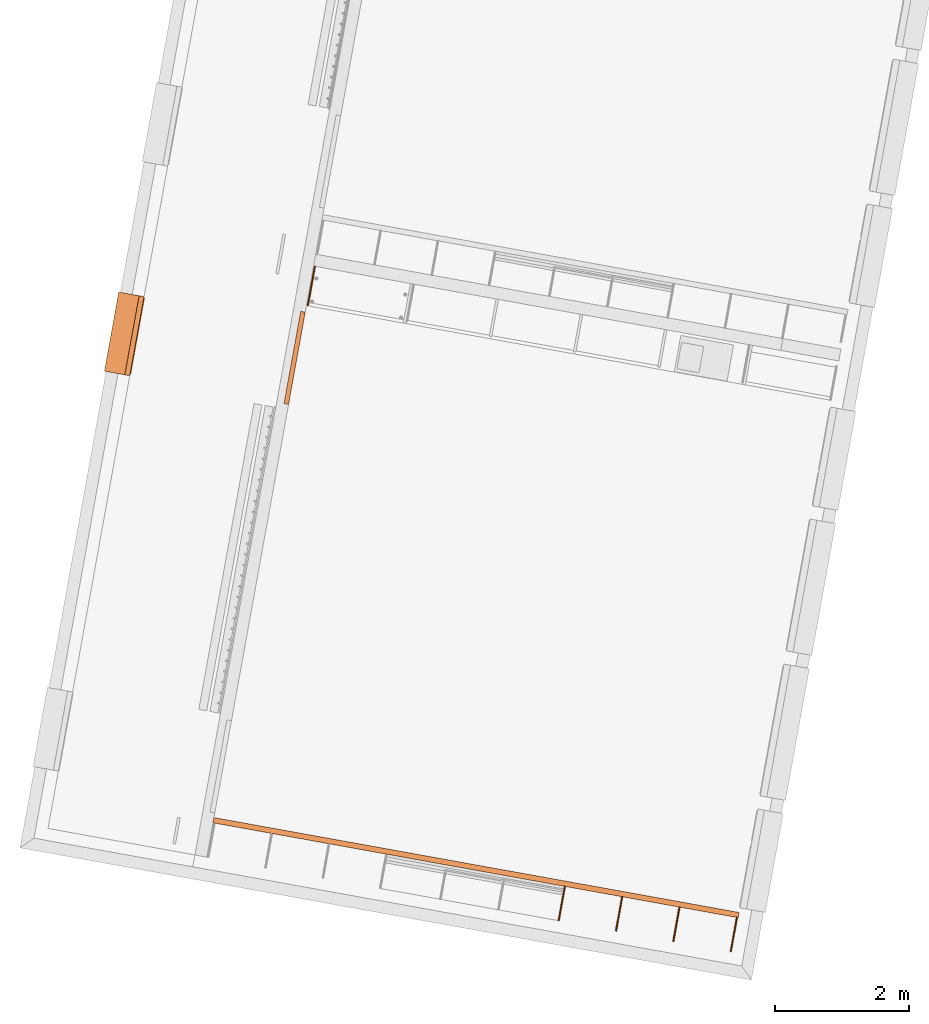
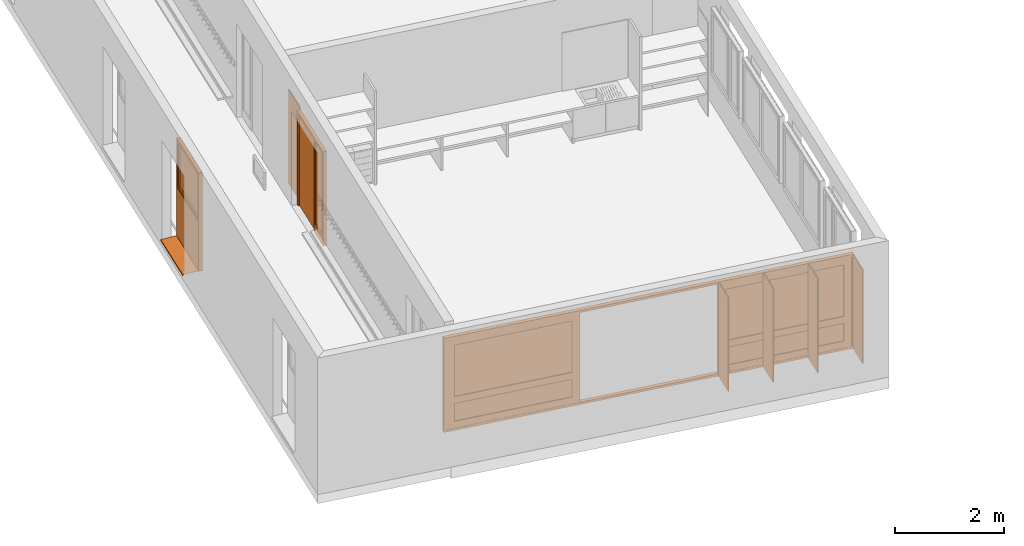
# One storey, part 9 of 52: 8 proxies.
"""IFC2X3 building model written with IfcOpenShell, lengths in metres."""

import ifcopenshell
import ifcopenshell.guid

model = None  # the IFC model being written
_history = None  # IfcOwnerHistory: only IFC2X3 demands one
_inside = {}  # id of a spatial element -> (the spatial element, [elements in it])
_under = {}  # id of a project, library or spatial element -> (it, [spatial elements below it])
_declared = {}  # id of a project -> (the project, [libraries it declares])
_typed = {}  # id of a type object -> (the type object, [elements of that type])
_made_of = {}  # id of a material, layer set ... -> (it, [elements and type objects made of it])


def new_model(schema):
    """Start an empty IFC model of exactly this schema.

    Asked for "IFC4X3", IfcOpenShell would pick the latest addendum, in which some entities
    have other attributes; the version numbers below select the first issue.
    IFC2X3 requires an IfcOwnerHistory on every rooted entity: one is made here for all.
    """
    global model, _history
    if schema == "IFC4X3":
        model = ifcopenshell.file(schema_version=(4, 3, 0, 0))
    else:
        model = ifcopenshell.file(schema=schema)
    _inside.clear()
    _under.clear()
    _declared.clear()
    _typed.clear()
    _made_of.clear()
    _history = None
    if model.schema == "IFC2X3":
        org = make("IfcOrganization", Name="unknown")
        user = make(
            "IfcPersonAndOrganization",
            ThePerson=make("IfcPerson", FamilyName="unknown"),
            TheOrganization=org,
        )
        app = make(
            "IfcApplication",
            ApplicationDeveloper=org,
            Version="unknown",
            ApplicationFullName="unknown",
            ApplicationIdentifier="unknown",
        )
        _history = make(
            "IfcOwnerHistory",
            OwningUser=user,
            OwningApplication=app,
            ChangeAction="ADDED",
            CreationDate=0,
        )
    return model


def make(cls, **values):
    """One entity of the class cls with the attributes given. An attribute that is None is left unset."""
    return model.create_entity(
        cls, **{name: value for name, value in values.items() if value is not None}
    )


def entity(cls, *values):
    """Any entity or typed value of the class cls, its attributes in the order of the schema. None: left unset."""
    e = model.create_entity(cls)
    for i, value in enumerate(values):
        if value is not None:
            e[i] = value
    return e


def rooted(cls, **values):
    """An entity with a GlobalId (a new one), such as an element, a storey or a relation."""
    return make(cls, GlobalId=ifcopenshell.guid.new(), OwnerHistory=_history, **values)


def si_unit(unit_type, name, prefix=None):
    """IfcSIUnit, for example si_unit("LENGTHUNIT", "METRE", prefix="MILLI")."""
    return make("IfcSIUnit", UnitType=unit_type, Prefix=prefix, Name=name)


def converted_unit(unit_type, name, factor, base, dimensions=None, offset=None):
    """IfcConversionBasedUnit, such as the inch: factor (a typed value) times the base unit."""
    return make(
        "IfcConversionBasedUnit"
        if offset is None
        else "IfcConversionBasedUnitWithOffset",
        ConversionOffset=offset,
        Dimensions=None
        if dimensions is None
        else entity("IfcDimensionalExponents", *dimensions),
        UnitType=unit_type,
        Name=name,
        ConversionFactor=make(
            "IfcMeasureWithUnit", ValueComponent=factor, UnitComponent=base
        ),
    )


def derived_unit(unit_type, elements):
    """IfcDerivedUnit: a product of units, each with its exponent."""
    return make(
        "IfcDerivedUnit",
        Elements=[
            make("IfcDerivedUnitElement", Unit=unit, Exponent=power)
            for unit, power in elements
        ],
        UnitType=unit_type,
    )


def money_unit(currency):
    """IfcMonetaryUnit."""
    return make("IfcMonetaryUnit", Currency=currency)


def assignment(units):
    """IfcUnitAssignment: the units of a project."""
    return None if units is None else make("IfcUnitAssignment", Units=units)


def point(xyz):
    """IfcCartesianPoint."""
    return None if xyz is None else make("IfcCartesianPoint", Coordinates=xyz)


def direction(xyz):
    """IfcDirection."""
    return None if xyz is None else make("IfcDirection", DirectionRatios=xyz)


def frame(location, z_axis=None, x_axis=None):
    """IfcAxis2Placement3D, a coordinate frame: its origin and axes. An axis left out is left unset."""
    return make(
        "IfcAxis2Placement3D",
        Location=point(location),
        Axis=direction(z_axis),
        RefDirection=direction(x_axis),
    )


def origin_with_axes():
    """The frame at (0, 0, 0) with the z axis (0, 0, 1) and the x axis (1, 0, 0) written out."""
    return frame((0.0, 0.0, 0.0), z_axis=(0.0, 0.0, 1.0), x_axis=(1.0, 0.0, 0.0))


def place(relative_to, where):
    """IfcLocalPlacement: puts the frame where relative to a parent placement (None: the world)."""
    return make(
        "IfcLocalPlacement", PlacementRelTo=relative_to, RelativePlacement=where
    )


def context(
    kind, dimensions, precision=None, world=None, true_north=None, identifier=None
):
    """IfcGeometricRepresentationContext, for example the 3D "Model" context."""
    return make(
        "IfcGeometricRepresentationContext",
        ContextIdentifier=identifier,
        ContextType=kind,
        CoordinateSpaceDimension=dimensions,
        Precision=precision,
        WorldCoordinateSystem=world,
        TrueNorth=true_north,
    )


def subcontext(parent, identifier, kind, view, scale=None):
    """IfcGeometricRepresentationSubContext, for example "Body" below "Model"."""
    return make(
        "IfcGeometricRepresentationSubContext",
        ContextIdentifier=identifier,
        ContextType=kind,
        ParentContext=parent,
        TargetScale=scale,
        TargetView=view,
    )


def project(units=None, contexts=None):
    """IfcProject with its units and contexts."""
    return rooted(
        "IfcProject",
        Name="project",
        RepresentationContexts=contexts,
        UnitsInContext=assignment(units),
    )


def spatial(cls, under=None, at=None, **own):
    """A site, building, storey or space (cls), placed at a placement, below another one or the project."""
    s = rooted(cls, ObjectPlacement=at, **own)
    if under is not None:
        _under.setdefault(under.id(), (under, []))[1].append(s)
    return s


def polyline(points):
    """IfcPolyline through the points."""
    return make("IfcPolyline", Points=[point(p) for p in points])


def outline(outer, holes=None, kind="AREA"):
    """IfcArbitraryClosedProfileDef: a profile drawn as a closed curve; with holes, ...WithVoids."""
    if holes is None:
        return make("IfcArbitraryClosedProfileDef", ProfileType=kind, OuterCurve=outer)
    return make(
        "IfcArbitraryProfileDefWithVoids",
        ProfileType=kind,
        OuterCurve=outer,
        InnerCurves=holes,
    )


def extrude(swept, where, along, depth):
    """IfcExtrudedAreaSolid: the profile swept, set in the frame where, extruded along a direction by depth."""
    return make(
        "IfcExtrudedAreaSolid",
        SweptArea=swept,
        Position=where,
        ExtrudedDirection=direction(along),
        Depth=depth,
    )


def faces_of(points, faces, orient=None, outer=None):
    """IfcFace entities. A face is a list of loops; a loop is a list of indices into points, from 0.

    orient and outer hold one flag for each loop. By default every Orientation is true, the
    first loop of a face is its IfcFaceOuterBound and the others are IfcFaceBound.
    """
    made = []
    for i, loops in enumerate(faces):
        bounds = []
        for j, loop in enumerate(loops):
            is_outer = j == 0 if outer is None else outer[i][j]
            bounds.append(
                make(
                    "IfcFaceOuterBound" if is_outer else "IfcFaceBound",
                    Bound=make("IfcPolyLoop", Polygon=[points[k] for k in loop]),
                    Orientation=True if orient is None else orient[i][j],
                )
            )
        made.append(make("IfcFace", Bounds=bounds))
    return made


def open_shell(faces, orient=None, outer=None):
    """The faces of one IfcOpenShell. surface_model builds it on its shared points."""
    return ("IfcOpenShell", faces, orient, outer)


def faceted_brep(points, faces, orient=None, outer=None, voids=None):
    """IfcFacetedBrep: a solid bounded by flat faces; with voids (closed shells), ...WithVoids."""
    shared = [point(p) for p in points]
    hull = make("IfcClosedShell", CfsFaces=faces_of(shared, faces, orient, outer))
    if voids is None:
        return make("IfcFacetedBrep", Outer=hull)
    return make(
        "IfcFacetedBrepWithVoids",
        Outer=hull,
        Voids=[
            make(cls, CfsFaces=faces_of(shared, fs, o, b)) for cls, fs, o, b in voids
        ],
    )


def surface_model(cls, points, shells):
    """IfcFaceBasedSurfaceModel or IfcShellBasedSurfaceModel (cls): surfaces that need not close."""
    shared = [point(p) for p in points]
    made = [make(c, CfsFaces=faces_of(shared, fs, o, b)) for c, fs, o, b in shells]
    if cls == "IfcFaceBasedSurfaceModel":
        return make(cls, FbsmFaces=made)
    return make(cls, SbsmBoundary=made)


def shape(context_of_items, identifier, shape_type, items):
    """IfcShapeRepresentation: the items that make up one representation, for example the "Body"."""
    return make(
        "IfcShapeRepresentation",
        ContextOfItems=context_of_items,
        RepresentationIdentifier=identifier,
        RepresentationType=shape_type,
        Items=items,
    )


def source(mapping_origin, context_of_items, identifier, shape_type, items):
    """IfcRepresentationMap: a shape defined once, which mapped items show again and again."""
    return make(
        "IfcRepresentationMap",
        MappingOrigin=mapping_origin,
        MappedRepresentation=shape(context_of_items, identifier, shape_type, items),
    )


def transform(
    local_origin,
    x_axis=None,
    y_axis=None,
    z_axis=None,
    scale=None,
    scale2=None,
    scale3=None,
    uniform=True,
):
    """IfcCartesianTransformationOperator3D, or its non-uniform kind. x_axis, y_axis, z_axis: its Axis1, 2, 3."""
    if uniform:
        return make(
            "IfcCartesianTransformationOperator3D",
            Axis1=direction(x_axis),
            Axis2=direction(y_axis),
            LocalOrigin=point(local_origin),
            Scale=scale,
            Axis3=direction(z_axis),
        )
    return make(
        "IfcCartesianTransformationOperator3DnonUniform",
        Axis1=direction(x_axis),
        Axis2=direction(y_axis),
        LocalOrigin=point(local_origin),
        Scale=scale,
        Axis3=direction(z_axis),
        Scale2=scale2,
        Scale3=scale3,
    )


def mapped(mapping_source, mapping_target):
    """IfcMappedItem: shows the shape of a source again, moved by a transform."""
    return make(
        "IfcMappedItem", MappingSource=mapping_source, MappingTarget=mapping_target
    )


def material(Name=None, Category=None):
    """IfcMaterial."""
    return make("IfcMaterial", Name=Name, Category=Category)


def made_of(thing, what):
    """Note that an element or type object is made of a material, layer set ...; save() writes the relation."""
    if what is not None:
        _made_of.setdefault(what.id(), (what, []))[1].append(thing)
    return thing


def type_object(cls, material=None, **own):
    """A type object (cls), such as IfcWallType, which elements share."""
    return made_of(rooted(cls, **own), material)


def element(
    cls,
    number,
    at=None,
    inside=None,
    cuts=None,
    type_object=None,
    material=None,
    context=None,
    identifier="Body",
    shape_type=None,
    held_by="IfcProductDefinitionShape",
    body=None,
    shapes=None,
    **own,
):
    """One element of the class cls, such as IfcWall. Its Tag is "e" and its number.

    at: its placement. inside: the storey or other place that contains it. cuts: it is an
    opening in that element (IfcRelVoidsElement). A single representation is given by context,
    identifier, shape_type and body (its items); several are given by shapes. held_by: the class
    of the entity that holds the representations. save() writes the other relations.
    """
    e = rooted(cls, Tag="e%d" % number, ObjectPlacement=at, **own)
    if body is not None:
        shapes = [shape(context, identifier, shape_type, body)]
    if shapes is not None:
        e.Representation = make(held_by, Representations=shapes)
    if inside is not None:
        _inside.setdefault(inside.id(), (inside, []))[1].append(e)
    if cuts is not None:
        rooted(
            "IfcRelVoidsElement", RelatingBuildingElement=cuts, RelatedOpeningElement=e
        )
    if type_object is not None:
        _typed.setdefault(type_object.id(), (type_object, []))[1].append(e)
    return made_of(e, material)


def aggregate(whole, parts):
    """IfcRelAggregates: a whole, such as a stair, and the parts it consists of."""
    return rooted("IfcRelAggregates", RelatingObject=whole, RelatedObjects=parts)


def save(model, path):
    """Write the relations noted so far, then the file.

    IfcRelAggregates (storeys below a building ...), IfcRelContainedInSpatialStructure (elements
    in a storey), IfcRelDefinesByType, IfcRelAssociatesMaterial and IfcRelDeclares: one each for
    every whole, place, type object, material and project.
    """
    for whole, parts in _under.values():
        aggregate(whole, parts)
    for where, things in _inside.values():
        rooted(
            "IfcRelContainedInSpatialStructure",
            RelatedElements=things,
            RelatingStructure=where,
        )
    for kind, things in _typed.values():
        rooted("IfcRelDefinesByType", RelatedObjects=things, RelatingType=kind)
    for what, things in _made_of.values():
        rooted("IfcRelAssociatesMaterial", RelatedObjects=things, RelatingMaterial=what)
    for by, libraries in _declared.values():
        rooted("IfcRelDeclares", RelatingContext=by, RelatedDefinitions=libraries)
    model.write(path)


model = new_model("IFC2X3")

# Units and contexts
model_context = context("Model", 3, precision=1e-05, world=origin_with_axes(), true_north=direction((0.0, 1.0)))
body_context = subcontext(model_context, "Body", "Model", "MODEL_VIEW")
ifc_project = project(units=[si_unit("LENGTHUNIT", "METRE"), si_unit("AREAUNIT", "SQUARE_METRE"), si_unit("VOLUMEUNIT", "CUBIC_METRE"), converted_unit("PLANEANGLEUNIT", "DEGREE", entity("IfcPlaneAngleMeasure", 0.0174532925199), si_unit("PLANEANGLEUNIT", "RADIAN"), dimensions=[0, 0, 0, 0, 0, 0, 0]), money_unit("CHF"), converted_unit("TIMEUNIT", "Year", entity("IfcTimeMeasure", 31556926.0), si_unit("TIMEUNIT", "SECOND"), dimensions=[0, 0, 1, 0, 0, 0, 0]), si_unit("MASSUNIT", "GRAM", prefix="KILO"), si_unit("THERMODYNAMICTEMPERATUREUNIT", "DEGREE_CELSIUS"), si_unit("LUMINOUSINTENSITYUNIT", "LUMEN"), si_unit("ENERGYUNIT", "JOULE", prefix="MEGA"), derived_unit("THERMALCONDUCTANCEUNIT", [(si_unit("POWERUNIT", "WATT"), 1), (si_unit("LENGTHUNIT", "METRE"), -1), (si_unit("THERMODYNAMICTEMPERATUREUNIT", "KELVIN"), -1)]), derived_unit("SPECIFICHEATCAPACITYUNIT", [(si_unit("ENERGYUNIT", "JOULE"), 1), (si_unit("MASSUNIT", "GRAM", prefix="KILO"), -1), (si_unit("THERMODYNAMICTEMPERATUREUNIT", "KELVIN"), -1)]), derived_unit("MASSDENSITYUNIT", [(si_unit("MASSUNIT", "GRAM", prefix="KILO"), 1), (si_unit("VOLUMEUNIT", "CUBIC_METRE"), -1)])], contexts=[model_context])

# Site, building, storey
site_placement = place(None, frame((0.0, 0.0, 0.0), z_axis=(0.0, 0.0, 1.0), x_axis=(-0.177771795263, -0.984071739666, 0.0)))
site = spatial("IfcSite", under=ifc_project, at=site_placement, Name="Site", CompositionType="ELEMENT")
building_placement = place(site_placement, origin_with_axes())
building = spatial("IfcBuilding", under=site, at=building_placement, Name="Bâtiment", CompositionType="ELEMENT")
storey_placement = place(building_placement, frame((0.0, 0.0, 3.2), z_axis=(0.0, 0.0, 1.0), x_axis=(1.0, 0.0, 0.0)))
storey = spatial("IfcBuildingStorey", under=building, at=storey_placement, Name="R+1", CompositionType="ELEMENT", Elevation=3.2)

# Proxies
ifc_material_1 = material(Name="Matériau de construction IFC")
building_element_proxy_type_1 = type_object("IfcBuildingElementProxyType", Name="porte-couliss-triple_JM2", PredefinedType="NOTDEFINED")
shared_shape_1 = source(origin_with_axes(), body_context, "Body", "SurfaceModel", [
    surface_model("IfcShellBasedSurfaceModel", [(7.92, -0.0799999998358, 0.05), (7.92, -0.0799999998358, 2.05), (7.92, 1.64206426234e-10, 2.05), (7.92, 1.64206426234e-10, 0.05), (7.97, -0.0799999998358, 2.05), (7.97, -0.0799999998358, 0.05), (7.97, 1.64206426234e-10, 2.05), (7.97, 1.64206426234e-10, 0.05)], [open_shell([[[0, 1, 2, 3]], [[4, 1, 0, 5]], [[6, 7, 3, 2]]])]),
    surface_model("IfcShellBasedSurfaceModel", [(7.97, -0.0799999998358, 0.0), (7.97, -0.0799999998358, 2.1), (7.97, 1.64206426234e-10, 2.1), (7.97, 1.64206426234e-10, 0.0)], [open_shell([[[0, 1, 2, 3]]])]),
    surface_model("IfcShellBasedSurfaceModel", [(0.05, -0.0799999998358, 0.05), (7.92, -0.0799999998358, 0.05), (7.92, 1.64206426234e-10, 0.05), (0.05, 1.64206426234e-10, 0.05), (7.92, -0.0799999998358, 0.0), (0.05, -0.0799999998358, 0.0), (7.92, 1.64206426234e-10, 0.0), (0.05, 1.64206426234e-10, 0.0)], [open_shell([[[0, 1, 2, 3]], [[4, 1, 0, 5]], [[6, 7, 3, 2]]])]),
    surface_model("IfcShellBasedSurfaceModel", [(7.97, -0.0799999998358, 0.0), (0.0, -0.0799999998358, 0.0), (0.0, 1.64206426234e-10, 0.0), (7.97, 1.64206426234e-10, 0.0)], [open_shell([[[0, 1, 2, 3]]])]),
    surface_model("IfcShellBasedSurfaceModel", [(7.97, -0.0799999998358, 0.0), (7.97, -0.0799999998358, 0.05), (7.92, -0.0799999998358, 0.05), (7.92, -0.0799999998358, 0.0)], [open_shell([[[0, 1, 2, 3]]])]),
    surface_model("IfcShellBasedSurfaceModel", [(7.97, 1.64206426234e-10, 0.0), (7.97, 1.64206426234e-10, 0.05), (7.92, 1.64206426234e-10, 0.05), (7.92, 1.64206426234e-10, 0.0)], [open_shell([[[0, 1, 2, 3]]])]),
    surface_model("IfcShellBasedSurfaceModel", [(0.05, -0.0799999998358, 0.0), (0.05, -0.0799999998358, 0.05), (0.0, -0.0799999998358, 0.05), (0.0, -0.0799999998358, 0.0)], [open_shell([[[0, 1, 2, 3]]])]),
    surface_model("IfcShellBasedSurfaceModel", [(0.05, 1.64206426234e-10, 0.0), (0.05, 1.64206426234e-10, 0.05), (0.0, 1.64206426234e-10, 0.05), (0.0, 1.64206426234e-10, 0.0)], [open_shell([[[0, 1, 2, 3]]])]),
    surface_model("IfcShellBasedSurfaceModel", [(0.05, -0.0799999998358, 2.05), (0.05, -0.0799999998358, 0.05), (0.05, 1.64206426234e-10, 0.05), (0.05, 1.64206426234e-10, 2.05), (0.0, -0.0799999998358, 0.05), (0.0, -0.0799999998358, 2.05), (0.0, 1.64206426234e-10, 0.05), (0.0, 1.64206426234e-10, 2.05)], [open_shell([[[0, 1, 2, 3]], [[4, 1, 0, 5]], [[6, 7, 3, 2]]])]),
    surface_model("IfcShellBasedSurfaceModel", [(0.0, -0.0799999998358, 0.0), (0.0, -0.0799999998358, 2.1), (0.0, 1.64206426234e-10, 2.1), (0.0, 1.64206426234e-10, 0.0)], [open_shell([[[0, 1, 2, 3]]])]),
    surface_model("IfcShellBasedSurfaceModel", [(7.92, -0.0799999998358, 2.05), (0.05, -0.0799999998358, 2.05), (0.05, 1.64206426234e-10, 2.05), (7.92, 1.64206426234e-10, 2.05), (0.05, -0.0799999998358, 2.1), (7.92, -0.0799999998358, 2.1), (0.05, 1.64206426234e-10, 2.1), (7.92, 1.64206426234e-10, 2.1)], [open_shell([[[0, 1, 2, 3]], [[4, 1, 0, 5]], [[6, 7, 3, 2]]])]),
    surface_model("IfcShellBasedSurfaceModel", [(7.97, -0.0799999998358, 2.1), (0.0, -0.0799999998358, 2.1), (0.0, 1.64206426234e-10, 2.1), (7.97, 1.64206426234e-10, 2.1)], [open_shell([[[0, 1, 2, 3]]])]),
    surface_model("IfcShellBasedSurfaceModel", [(7.97, -0.0799999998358, 2.05), (7.97, -0.0799999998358, 2.1), (7.92, -0.0799999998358, 2.1), (7.92, -0.0799999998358, 2.05)], [open_shell([[[0, 1, 2, 3]]])]),
    surface_model("IfcShellBasedSurfaceModel", [(7.97, 1.64206426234e-10, 2.05), (7.97, 1.64206426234e-10, 2.1), (7.92, 1.64206426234e-10, 2.1), (7.92, 1.64206426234e-10, 2.05)], [open_shell([[[0, 1, 2, 3]]])]),
    surface_model("IfcShellBasedSurfaceModel", [(0.05, -0.0799999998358, 2.05), (0.05, -0.0799999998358, 2.1), (0.0, -0.0799999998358, 2.1), (0.0, -0.0799999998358, 2.05)], [open_shell([[[0, 1, 2, 3]]])]),
    surface_model("IfcShellBasedSurfaceModel", [(0.05, 1.64206426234e-10, 2.05), (0.05, 1.64206426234e-10, 2.1), (0.0, 1.64206426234e-10, 2.1), (0.0, 1.64206426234e-10, 2.05)], [open_shell([[[0, 1, 2, 3]]])]),
    surface_model("IfcShellBasedSurfaceModel", [(7.77, -0.0744999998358, 0.2), (7.77, -0.0744999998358, 1.9), (7.77, -0.00449999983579, 1.9), (7.77, -0.00449999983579, 0.2), (7.92, -0.0744999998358, 1.9), (7.92, -0.0744999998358, 0.2), (7.92, -0.00449999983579, 1.9), (7.92, -0.00449999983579, 0.2)], [open_shell([[[0, 1, 2, 3]], [[4, 1, 0, 5]], [[6, 7, 3, 2]]])]),
    surface_model("IfcShellBasedSurfaceModel", [(7.92, -0.0744999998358, 0.05), (7.92, -0.0744999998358, 2.05), (7.92, -0.00449999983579, 2.05), (7.92, -0.00449999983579, 0.05)], [open_shell([[[0, 1, 2, 3]]])]),
    surface_model("IfcShellBasedSurfaceModel", [(5.48, -0.0744999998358, 0.2), (7.77, -0.0744999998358, 0.2), (7.77, -0.00449999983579, 0.2), (5.48, -0.00449999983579, 0.2), (7.77, -0.0744999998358, 0.05), (5.48, -0.0744999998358, 0.05), (7.77, -0.00449999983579, 0.05), (5.48, -0.00449999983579, 0.05)], [open_shell([[[0, 1, 2, 3]], [[4, 1, 0, 5]], [[6, 7, 3, 2]]])]),
    surface_model("IfcShellBasedSurfaceModel", [(7.92, -0.0744999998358, 0.05), (5.33, -0.0744999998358, 0.05), (5.33, -0.00449999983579, 0.05), (7.92, -0.00449999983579, 0.05)], [open_shell([[[0, 1, 2, 3]]])]),
    surface_model("IfcShellBasedSurfaceModel", [(7.92, -0.0744999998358, 0.05), (7.92, -0.0744999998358, 0.2), (7.77, -0.0744999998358, 0.2), (7.77, -0.0744999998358, 0.05)], [open_shell([[[0, 1, 2, 3]]])]),
    surface_model("IfcShellBasedSurfaceModel", [(7.92, -0.00449999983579, 0.05), (7.92, -0.00449999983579, 0.2), (7.77, -0.00449999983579, 0.2), (7.77, -0.00449999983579, 0.05)], [open_shell([[[0, 1, 2, 3]]])]),
    surface_model("IfcShellBasedSurfaceModel", [(5.48, -0.0744999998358, 0.05), (5.48, -0.0744999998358, 0.2), (5.33, -0.0744999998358, 0.2), (5.33, -0.0744999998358, 0.05)], [open_shell([[[0, 1, 2, 3]]])]),
    surface_model("IfcShellBasedSurfaceModel", [(5.48, -0.00449999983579, 0.05), (5.48, -0.00449999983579, 0.2), (5.33, -0.00449999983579, 0.2), (5.33, -0.00449999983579, 0.05)], [open_shell([[[0, 1, 2, 3]]])]),
    surface_model("IfcShellBasedSurfaceModel", [(5.48, -0.0744999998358, 1.9), (5.48, -0.0744999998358, 0.2), (5.48, -0.00449999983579, 0.2), (5.48, -0.00449999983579, 1.9), (5.33, -0.0744999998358, 0.2), (5.33, -0.0744999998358, 1.9), (5.33, -0.00449999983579, 0.2), (5.33, -0.00449999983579, 1.9)], [open_shell([[[0, 1, 2, 3]], [[4, 1, 0, 5]], [[6, 7, 3, 2]]])]),
    surface_model("IfcShellBasedSurfaceModel", [(5.33, -0.0744999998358, 0.05), (5.33, -0.0744999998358, 2.05), (5.33, -0.00449999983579, 2.05), (5.33, -0.00449999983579, 0.05)], [open_shell([[[0, 1, 2, 3]]])]),
    surface_model("IfcShellBasedSurfaceModel", [(7.77, -0.0744999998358, 1.9), (5.48, -0.0744999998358, 1.9), (5.48, -0.00449999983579, 1.9), (7.77, -0.00449999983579, 1.9), (5.48, -0.0744999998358, 2.05), (7.77, -0.0744999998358, 2.05), (5.48, -0.00449999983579, 2.05), (7.77, -0.00449999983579, 2.05)], [open_shell([[[0, 1, 2, 3]], [[4, 1, 0, 5]], [[6, 7, 3, 2]]])]),
    surface_model("IfcShellBasedSurfaceModel", [(7.92, -0.0744999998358, 2.05), (5.33, -0.0744999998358, 2.05), (5.33, -0.00449999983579, 2.05), (7.92, -0.00449999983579, 2.05)], [open_shell([[[0, 1, 2, 3]]])]),
    surface_model("IfcShellBasedSurfaceModel", [(7.92, -0.0744999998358, 1.9), (7.92, -0.0744999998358, 2.05), (7.77, -0.0744999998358, 2.05), (7.77, -0.0744999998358, 1.9)], [open_shell([[[0, 1, 2, 3]]])]),
    surface_model("IfcShellBasedSurfaceModel", [(7.92, -0.00449999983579, 1.9), (7.92, -0.00449999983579, 2.05), (7.77, -0.00449999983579, 2.05), (7.77, -0.00449999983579, 1.9)], [open_shell([[[0, 1, 2, 3]]])]),
    surface_model("IfcShellBasedSurfaceModel", [(5.48, -0.0744999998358, 1.9), (5.48, -0.0744999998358, 2.05), (5.33, -0.0744999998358, 2.05), (5.33, -0.0744999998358, 1.9)], [open_shell([[[0, 1, 2, 3]]])]),
    surface_model("IfcShellBasedSurfaceModel", [(5.48, -0.00449999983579, 1.9), (5.48, -0.00449999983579, 2.05), (5.33, -0.00449999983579, 2.05), (5.33, -0.00449999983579, 1.9)], [open_shell([[[0, 1, 2, 3]]])]),
    faceted_brep([(5.48, -0.0194999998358, 0.2), (7.77, -0.0194999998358, 0.2), (7.77, -0.0594999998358, 0.2), (5.48, -0.0594999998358, 0.2), (5.48, -0.0194999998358, 0.6), (7.77, -0.0194999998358, 0.6), (7.77, -0.0594999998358, 0.6), (5.48, -0.0594999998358, 0.6)], [[[0, 1, 2, 3]], [[1, 0, 4, 5]], [[2, 1, 5, 6]], [[3, 2, 6, 7]], [[0, 3, 7, 4]], [[5, 4, 7, 6]]]),
    faceted_brep([(5.48, -0.00449999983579, 0.6), (7.77, -0.00449999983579, 0.6), (7.77, -0.0744999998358, 0.6), (5.48, -0.0744999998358, 0.6), (5.48, -0.00449999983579, 0.75), (7.77, -0.00449999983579, 0.75), (7.77, -0.0744999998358, 0.75), (5.48, -0.0744999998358, 0.75)], [[[0, 1, 2, 3]], [[1, 0, 4, 5]], [[2, 1, 5, 6]], [[3, 2, 6, 7]], [[0, 3, 7, 4]], [[5, 4, 7, 6]]]),
    faceted_brep([(5.48, -0.0194999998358, 0.75), (7.77, -0.0194999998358, 0.75), (7.77, -0.0594999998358, 0.75), (5.48, -0.0594999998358, 0.75), (5.48, -0.0194999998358, 1.9), (7.77, -0.0194999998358, 1.9), (7.77, -0.0594999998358, 1.9), (5.48, -0.0594999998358, 1.9)], [[[0, 1, 2, 3]], [[1, 0, 4, 5]], [[2, 1, 5, 6]], [[3, 2, 6, 7]], [[0, 3, 7, 4]], [[5, 4, 7, 6]]]),
    surface_model("IfcShellBasedSurfaceModel", [(2.49, -0.0744999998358, 0.2), (2.49, -0.0744999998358, 1.9), (2.49, -0.00449999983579, 1.9), (2.49, -0.00449999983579, 0.2), (2.64, -0.0744999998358, 1.9), (2.64, -0.0744999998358, 0.2), (2.64, -0.00449999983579, 1.9), (2.64, -0.00449999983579, 0.2)], [open_shell([[[0, 1, 2, 3]], [[4, 1, 0, 5]], [[6, 7, 3, 2]]])]),
    surface_model("IfcShellBasedSurfaceModel", [(2.64, -0.0744999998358, 0.05), (2.64, -0.0744999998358, 2.05), (2.64, -0.00449999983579, 2.05), (2.64, -0.00449999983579, 0.05)], [open_shell([[[0, 1, 2, 3]]])]),
    surface_model("IfcShellBasedSurfaceModel", [(0.2, -0.0744999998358, 0.2), (2.49, -0.0744999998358, 0.2), (2.49, -0.00449999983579, 0.2), (0.2, -0.00449999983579, 0.2), (2.49, -0.0744999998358, 0.05), (0.2, -0.0744999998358, 0.05), (2.49, -0.00449999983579, 0.05), (0.2, -0.00449999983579, 0.05)], [open_shell([[[0, 1, 2, 3]], [[4, 1, 0, 5]], [[6, 7, 3, 2]]])]),
    surface_model("IfcShellBasedSurfaceModel", [(2.64, -0.0744999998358, 0.05), (0.05, -0.0744999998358, 0.05), (0.05, -0.00449999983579, 0.05), (2.64, -0.00449999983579, 0.05)], [open_shell([[[0, 1, 2, 3]]])]),
    surface_model("IfcShellBasedSurfaceModel", [(2.64, -0.0744999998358, 0.05), (2.64, -0.0744999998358, 0.2), (2.49, -0.0744999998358, 0.2), (2.49, -0.0744999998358, 0.05)], [open_shell([[[0, 1, 2, 3]]])]),
    surface_model("IfcShellBasedSurfaceModel", [(2.64, -0.00449999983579, 0.05), (2.64, -0.00449999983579, 0.2), (2.49, -0.00449999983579, 0.2), (2.49, -0.00449999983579, 0.05)], [open_shell([[[0, 1, 2, 3]]])]),
    surface_model("IfcShellBasedSurfaceModel", [(0.2, -0.0744999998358, 0.05), (0.2, -0.0744999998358, 0.2), (0.05, -0.0744999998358, 0.2), (0.05, -0.0744999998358, 0.05)], [open_shell([[[0, 1, 2, 3]]])]),
    surface_model("IfcShellBasedSurfaceModel", [(0.2, -0.00449999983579, 0.05), (0.2, -0.00449999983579, 0.2), (0.05, -0.00449999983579, 0.2), (0.05, -0.00449999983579, 0.05)], [open_shell([[[0, 1, 2, 3]]])]),
    surface_model("IfcShellBasedSurfaceModel", [(0.2, -0.0744999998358, 1.9), (0.2, -0.0744999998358, 0.2), (0.2, -0.00449999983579, 0.2), (0.2, -0.00449999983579, 1.9), (0.05, -0.0744999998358, 0.2), (0.05, -0.0744999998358, 1.9), (0.05, -0.00449999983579, 0.2), (0.05, -0.00449999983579, 1.9)], [open_shell([[[0, 1, 2, 3]], [[4, 1, 0, 5]], [[6, 7, 3, 2]]])]),
    surface_model("IfcShellBasedSurfaceModel", [(0.05, -0.0744999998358, 0.05), (0.05, -0.0744999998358, 2.05), (0.05, -0.00449999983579, 2.05), (0.05, -0.00449999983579, 0.05)], [open_shell([[[0, 1, 2, 3]]])]),
    surface_model("IfcShellBasedSurfaceModel", [(2.49, -0.0744999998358, 1.9), (0.2, -0.0744999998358, 1.9), (0.2, -0.00449999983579, 1.9), (2.49, -0.00449999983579, 1.9), (0.2, -0.0744999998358, 2.05), (2.49, -0.0744999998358, 2.05), (0.2, -0.00449999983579, 2.05), (2.49, -0.00449999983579, 2.05)], [open_shell([[[0, 1, 2, 3]], [[4, 1, 0, 5]], [[6, 7, 3, 2]]])]),
    surface_model("IfcShellBasedSurfaceModel", [(2.64, -0.0744999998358, 2.05), (0.05, -0.0744999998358, 2.05), (0.05, -0.00449999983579, 2.05), (2.64, -0.00449999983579, 2.05)], [open_shell([[[0, 1, 2, 3]]])]),
    surface_model("IfcShellBasedSurfaceModel", [(2.64, -0.0744999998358, 1.9), (2.64, -0.0744999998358, 2.05), (2.49, -0.0744999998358, 2.05), (2.49, -0.0744999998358, 1.9)], [open_shell([[[0, 1, 2, 3]]])]),
    surface_model("IfcShellBasedSurfaceModel", [(2.64, -0.00449999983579, 1.9), (2.64, -0.00449999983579, 2.05), (2.49, -0.00449999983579, 2.05), (2.49, -0.00449999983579, 1.9)], [open_shell([[[0, 1, 2, 3]]])]),
    surface_model("IfcShellBasedSurfaceModel", [(0.2, -0.0744999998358, 1.9), (0.2, -0.0744999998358, 2.05), (0.05, -0.0744999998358, 2.05), (0.05, -0.0744999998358, 1.9)], [open_shell([[[0, 1, 2, 3]]])]),
    surface_model("IfcShellBasedSurfaceModel", [(0.2, -0.00449999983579, 1.9), (0.2, -0.00449999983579, 2.05), (0.05, -0.00449999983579, 2.05), (0.05, -0.00449999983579, 1.9)], [open_shell([[[0, 1, 2, 3]]])]),
    faceted_brep([(0.2, -0.0194999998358, 0.2), (2.49, -0.0194999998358, 0.2), (2.49, -0.0594999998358, 0.2), (0.2, -0.0594999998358, 0.2), (0.2, -0.0194999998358, 0.6), (2.49, -0.0194999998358, 0.6), (2.49, -0.0594999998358, 0.6), (0.2, -0.0594999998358, 0.6)], [[[0, 1, 2, 3]], [[1, 0, 4, 5]], [[2, 1, 5, 6]], [[3, 2, 6, 7]], [[0, 3, 7, 4]], [[5, 4, 7, 6]]]),
    faceted_brep([(0.2, -0.00449999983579, 0.6), (2.49, -0.00449999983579, 0.6), (2.49, -0.0744999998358, 0.6), (0.2, -0.0744999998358, 0.6), (0.2, -0.00449999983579, 0.75), (2.49, -0.00449999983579, 0.75), (2.49, -0.0744999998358, 0.75), (0.2, -0.0744999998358, 0.75)], [[[0, 1, 2, 3]], [[1, 0, 4, 5]], [[2, 1, 5, 6]], [[3, 2, 6, 7]], [[0, 3, 7, 4]], [[5, 4, 7, 6]]]),
    faceted_brep([(0.2, -0.0194999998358, 0.75), (2.49, -0.0194999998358, 0.75), (2.49, -0.0594999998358, 0.75), (0.2, -0.0594999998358, 0.75), (0.2, -0.0194999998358, 1.9), (2.49, -0.0194999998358, 1.9), (2.49, -0.0594999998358, 1.9), (0.2, -0.0594999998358, 1.9)], [[[0, 1, 2, 3]], [[1, 0, 4, 5]], [[2, 1, 5, 6]], [[3, 2, 6, 7]], [[0, 3, 7, 4]], [[5, 4, 7, 6]]]),
])
proxy_1_placement = place(storey_placement, frame((164.069841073, -156.44715293, 0.0), z_axis=(0.0, 0.0, 1.0), x_axis=(0.0, 1.0, 0.0)))
element("IfcBuildingElementProxy", 1, at=proxy_1_placement, inside=storey, type_object=building_element_proxy_type_1, material=ifc_material_1, Name="coulissant-classe", context=body_context, shape_type="MappedRepresentation", body=[
    mapped(shared_shape_1, transform((0.0, 0.0, 0.0))),
])
ifc_material_2 = material(Name="_panneau mélaminé")
building_element_proxy_type_2 = type_object("IfcBuildingElementProxyType", Name="_panneau mélaminé 19", PredefinedType="NOTDEFINED")
proxy_2_placement = place(storey_placement, frame((156.299841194, -156.418151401, 0.0), z_axis=(0.0, 0.0, 1.0), x_axis=(-1.0, 0.0, 0.0)))
element("IfcBuildingElementProxy", 2, at=proxy_2_placement, inside=storey, type_object=building_element_proxy_type_2, material=ifc_material_2, Name="cloison-fd-classe G", context=body_context, shape_type="SweptSolid", body=[
    extrude(outline(polyline([(0.0, 0.0), (0.600000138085, 0.0), (0.600000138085, 0.019), (0.0, 0.019), (0.0, 0.0)])), origin_with_axes(), (0.0, 0.0, 1.0), 2.1),
])
proxy_3_placement = place(storey_placement, frame((164.669841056, -148.506152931, 0.0), z_axis=(0.0, 0.0, 1.0), x_axis=(-1.0, 0.0, 0.0)))
element("IfcBuildingElementProxy", 3, at=proxy_3_placement, inside=storey, type_object=building_element_proxy_type_2, material=ifc_material_2, Name="cloison pl-classe", context=body_context, shape_type="SweptSolid", body=[
    extrude(outline(polyline([(0.0, -0.019), (0.519999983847, -0.019), (0.519999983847, 0.0), (0.0, 0.0), (0.0, -0.019)])), origin_with_axes(), (0.0, 0.0, 1.0), 2.1),
])
proxy_4_placement = place(storey_placement, frame((164.669841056, -151.107651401, 0.0), z_axis=(0.0, 0.0, 1.0), x_axis=(-1.0, 0.0, 0.0)))
element("IfcBuildingElementProxy", 4, at=proxy_4_placement, inside=storey, type_object=building_element_proxy_type_2, material=ifc_material_2, Name="cloison pl-classe", context=body_context, shape_type="SweptSolid", body=[
    extrude(outline(polyline([(0.0, -0.0095), (0.519999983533, -0.0095), (0.519999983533, 0.0095), (0.0, 0.0095), (0.0, -0.0095)])), origin_with_axes(), (0.0, 0.0, 1.0), 2.1),
])
for number, where, z_axis, x_axis, name in (
    (5, (164.669841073, -149.367651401, 0.0), (0.0, 0.0, 1.0), (-1.0, 0.0, 0.0), "cloison pl-classe"),
    (6, (164.669841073, -150.237651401, 0.0), (0.0, 0.0, 1.0), (-1.0, 0.0, 0.0), "cloison pl-classe"),
):
    element("IfcBuildingElementProxy", number, at=place(storey_placement, frame(where, z_axis=z_axis, x_axis=x_axis)), inside=storey, type_object=building_element_proxy_type_2, material=ifc_material_2, Name=name, context=body_context, shape_type="SweptSolid", body=[
        extrude(outline(polyline([(0.0, -0.0095), (0.519999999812, -0.0095), (0.519999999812, 0.0095), (0.0, 0.0095), (0.0, -0.0095)])), origin_with_axes(), (0.0, 0.0, 1.0), 2.1),
    ])
building_element_proxy_type_3 = type_object("IfcBuildingElementProxyType", Name="Porte avec tierce vitrée côté 2 21", PredefinedType="NOTDEFINED")
shared_shape_2 = source(origin_with_axes(), body_context, "Body", "SurfaceModel", [
    faceted_brep([(1.4, 0.179999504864, 0.0), (1.4, 0.109999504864, 0.0), (1.35, 0.109999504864, 0.0), (1.35, 0.179999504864, 0.0), (1.4, 0.179999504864, 2.05), (1.4, 0.109999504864, 2.05), (1.35, 0.109999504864, 2.05), (1.35, 0.109999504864, 0.2), (1.35, 0.179999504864, 0.2), (1.35, 0.179999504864, 2.05)], [[[0, 1, 2, 3]], [[4, 5, 1, 0]], [[1, 5, 6, 7, 2]], [[3, 2, 7, 8]], [[0, 3, 8, 9, 4]], [[9, 6, 5, 4]], [[8, 7, 6, 9]]]),
    faceted_brep([(0.91, 0.139999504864, 0.0), (0.91, 0.109999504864, 0.0), (0.91, 0.109999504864, 2.05), (0.91, 0.139999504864, 2.05), (0.93, 0.139999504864, 0.0), (0.93, 0.179999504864, 0.0), (0.96, 0.179999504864, 0.0), (0.96, 0.109999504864, 0.0), (0.96, 0.109999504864, 0.2), (0.96, 0.109999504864, 2.05), (0.93, 0.139999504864, 2.05), (0.96, 0.179999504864, 2.05), (0.93, 0.179999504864, 2.05), (0.96, 0.179999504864, 0.2)], [[[0, 1, 2, 3]], [[4, 5, 6, 7, 1, 0]], [[7, 8, 9, 2, 1]], [[10, 3, 2, 9, 11, 12]], [[10, 4, 0, 3]], [[12, 5, 4, 10]], [[12, 11, 13, 6, 5]], [[6, 13, 8, 7]], [[13, 11, 9, 8]]]),
    faceted_brep([(1.35, 0.179999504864, 0.2), (1.35, 0.109999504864, 0.2), (1.35, 0.109999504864, 0.0), (1.35, 0.179999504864, 0.0), (0.96, 0.179999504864, 0.2), (0.96, 0.109999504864, 0.2), (0.96, 0.109999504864, 0.0), (0.96, 0.179999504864, 0.0)], [[[0, 1, 2, 3]], [[4, 5, 1, 0]], [[1, 5, 6, 2]], [[3, 2, 6, 7]], [[0, 3, 7, 4]], [[7, 6, 5, 4]]]),
    faceted_brep([(0.03, 0.139999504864, 2.05), (0.03, 0.179999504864, 2.05), (0.0, 0.179999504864, 2.05), (0.0, 0.109999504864, 2.05), (0.05, 0.109999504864, 2.05), (0.05, 0.139999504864, 2.05), (0.03, 0.139999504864, 0.0), (0.03, 0.179999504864, 0.0), (0.0, 0.179999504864, 0.0), (0.0, 0.109999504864, 0.0), (0.05, 0.109999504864, 0.0), (0.05, 0.139999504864, 0.0)], [[[0, 1, 2, 3, 4, 5]], [[0, 6, 7, 1]], [[7, 8, 2, 1]], [[2, 8, 9, 3]], [[3, 9, 10, 4]], [[5, 4, 10, 11]], [[5, 11, 6, 0]], [[6, 11, 10, 9, 8, 7]]]),
    faceted_brep([(0.93, 0.179999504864, 2.07), (0.03, 0.179999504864, 2.07), (0.03, 0.179999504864, 2.05), (0.0, 0.179999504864, 2.05), (0.0, 0.179999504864, 2.1), (1.4, 0.179999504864, 2.1), (1.4, 0.179999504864, 2.05), (1.35, 0.179999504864, 2.05), (0.96, 0.179999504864, 2.05), (0.93, 0.179999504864, 2.05), (0.93, 0.139999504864, 2.07), (0.03, 0.139999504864, 2.07), (0.03, 0.139999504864, 2.05), (0.05, 0.139999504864, 2.05), (0.05, 0.109999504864, 2.05), (0.0, 0.109999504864, 2.05), (0.0, 0.109999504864, 2.1), (1.4, 0.109999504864, 2.1), (1.4, 0.109999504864, 2.05), (1.35, 0.109999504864, 2.05), (0.96, 0.109999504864, 2.05), (0.93, 0.139999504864, 2.05), (0.91, 0.109999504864, 2.05)], [[[0, 1, 2, 3, 4, 5, 6, 7, 8, 9]], [[0, 10, 11, 1]], [[1, 11, 12, 2]], [[12, 13, 14, 15, 3, 2]], [[4, 3, 15, 16]], [[5, 4, 16, 17]], [[6, 5, 17, 18]], [[7, 6, 18, 19]], [[8, 7, 19, 20]], [[21, 9, 8, 20, 22, 14, 13]], [[9, 21, 10, 0]], [[12, 11, 10, 21, 13]], [[14, 22, 20, 19, 18, 17, 16, 15]]]),
    faceted_brep([(0.03, 0.179999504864, 0.0), (0.93, 0.179999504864, 0.0), (0.93, 0.139999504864, 0.0), (0.03, 0.139999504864, 0.0), (0.03, 0.179999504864, 2.07), (0.93, 0.179999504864, 2.07), (0.93, 0.139999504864, 2.07), (0.03, 0.139999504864, 2.07)], [[[0, 1, 2, 3]], [[0, 4, 5, 1]], [[1, 5, 6, 2]], [[3, 2, 6, 7]], [[4, 0, 3, 7]], [[5, 4, 7, 6]]]),
    surface_model("IfcShellBasedSurfaceModel", [(1.35, 0.144999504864, 0.2), (0.96, 0.144999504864, 0.2), (0.96, 0.144999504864, 2.05), (1.35, 0.144999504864, 2.05)], [open_shell([[[0, 1, 2, 3]]])]),
    surface_model("IfcShellBasedSurfaceModel", [(1.35, 0.134999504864, 0.2), (1.35, 0.134999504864, 2.05), (0.96, 0.134999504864, 2.05), (0.96, 0.134999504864, 0.2)], [open_shell([[[0, 1, 2, 3]]])]),
])
proxy_5_placement = place(storey_placement, frame((156.399841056, -156.62715293, 0.0), z_axis=(0.0, 0.0, 1.0), x_axis=(1.0, 0.0, 0.0)))
element("IfcBuildingElementProxy", 7, at=proxy_5_placement, inside=storey, type_object=building_element_proxy_type_3, material=ifc_material_1, Name="19", context=body_context, shape_type="MappedRepresentation", body=[
    mapped(shared_shape_2, transform((0.0, 0.0, 0.0))),
])
building_element_proxy_type_4 = type_object("IfcBuildingElementProxyType", Name="Fenêtre variable 21", PredefinedType="NOTDEFINED")
shared_shape_3 = source(origin_with_axes(), body_context, "Body", "SurfaceModel", [
    surface_model("IfcShellBasedSurfaceModel", [(0.0, 0.284, 0.02), (0.0, 0.284, 0.01), (1.2, 0.284, 0.01), (1.2, 0.284, 0.02), (0.0, -0.025, -0.00087719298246), (1.2, -0.025, -0.00087719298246), (0.0, -0.025, -0.0308771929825), (1.2, -0.025, -0.0308771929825), (0.0, -0.0125, -0.0183771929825), (1.2, -0.0125, -0.0183771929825)], [open_shell([[[0, 1, 2, 3]], [[1, 4, 5, 2]], [[4, 6, 7, 5]], [[6, 8, 9, 7]]])]),
    faceted_brep([(0.02, 0.36, 2.169), (0.0, 0.36, 2.169), (0.0, 0.285, 2.169), (0.03, 0.285, 2.169), (0.03, 0.295, 2.169), (0.02, 0.295, 2.169), (0.02, 0.36, 1.095), (0.03, 0.36, 1.095), (0.03, 0.36, 1.055), (0.03, 0.36, 0.05), (0.0, 0.36, 0.05), (0.0, 0.285, 0.05), (0.03, 0.285, 1.105), (0.03, 0.285, 0.05), (0.03, 0.285, 1.055), (0.03, 0.295, 1.105), (0.03, 0.295, 1.095), (0.02, 0.295, 1.095)], [[[0, 1, 2, 3, 4, 5]], [[6, 7, 8, 9, 10, 1, 0]], [[1, 10, 11, 2]], [[12, 3, 2, 11, 13, 14]], [[4, 3, 12, 15]], [[15, 16, 17, 5, 4]], [[5, 17, 6, 0]], [[6, 17, 16, 7]], [[16, 15, 12, 14, 8, 7]], [[9, 8, 14, 13]], [[10, 9, 13, 11]]]),
    faceted_brep([(1.17, 0.295, 2.169), (1.17, 0.285, 2.169), (1.2, 0.285, 2.169), (1.2, 0.36, 2.169), (1.18, 0.36, 2.169), (1.18, 0.295, 2.169), (1.17, 0.295, 1.105), (1.17, 0.285, 1.105), (1.2, 0.285, 0.05), (1.17, 0.285, 1.055), (1.17, 0.285, 0.05), (1.2, 0.36, 0.05), (1.18, 0.36, 1.095), (1.17, 0.36, 0.05), (1.17, 0.36, 1.055), (1.17, 0.36, 1.095), (1.18, 0.295, 1.095), (1.17, 0.295, 1.095)], [[[0, 1, 2, 3, 4, 5]], [[6, 7, 1, 0]], [[8, 2, 1, 7, 9, 10]], [[11, 3, 2, 8]], [[12, 4, 3, 11, 13, 14, 15]], [[12, 16, 5, 4]], [[5, 16, 17, 6, 0]], [[17, 15, 14, 9, 7, 6]], [[14, 13, 10, 9]], [[13, 11, 8, 10]], [[15, 17, 16, 12]]]),
    faceted_brep([(0.03, 0.295, 1.105), (0.03, 0.285, 1.105), (1.17, 0.285, 1.105), (1.17, 0.295, 1.105), (0.03, 0.295, 1.095), (0.03, 0.36, 1.095), (0.03, 0.36, 1.055), (0.03, 0.285, 1.055), (1.17, 0.285, 1.055), (1.17, 0.295, 1.095), (1.17, 0.36, 1.055), (1.17, 0.36, 1.095)], [[[0, 1, 2, 3]], [[4, 5, 6, 7, 1, 0]], [[8, 2, 1, 7]], [[9, 3, 2, 8, 10, 11]], [[9, 4, 0, 3]], [[5, 4, 9, 11]], [[11, 10, 6, 5]], [[6, 10, 8, 7]]]),
    faceted_brep([(0.02, 0.36, 2.169), (0.0, 0.36, 2.169), (0.0, 0.36, 2.199), (1.2, 0.36, 2.199), (1.2, 0.36, 2.169), (1.18, 0.36, 2.169), (1.18, 0.36, 2.179), (0.02, 0.36, 2.179), (0.02, 0.295, 2.169), (0.03, 0.295, 2.169), (0.03, 0.285, 2.169), (0.0, 0.285, 2.169), (0.0, 0.285, 2.199), (1.2, 0.285, 2.199), (1.2, 0.285, 2.169), (1.18, 0.295, 2.169), (1.17, 0.285, 2.169), (1.17, 0.295, 2.169), (1.18, 0.295, 2.179), (0.02, 0.295, 2.179)], [[[0, 1, 2, 3, 4, 5, 6, 7]], [[8, 9, 10, 11, 1, 0]], [[2, 1, 11, 12]], [[3, 2, 12, 13]], [[4, 3, 13, 14]], [[15, 5, 4, 14, 16, 17]], [[5, 15, 18, 6]], [[6, 18, 19, 7]], [[7, 19, 8, 0]], [[17, 9, 8, 19, 18, 15]], [[17, 16, 10, 9]], [[14, 13, 12, 11, 10, 16]]]),
    faceted_brep([(0.03, 0.285, 0.05), (0.03, 0.36, 0.05), (0.0, 0.36, 0.05), (0.0, 0.285, 0.05), (1.17, 0.285, 0.05), (1.17, 0.36, 0.05), (1.2, 0.36, 0.05), (1.2, 0.36, 0.0), (0.0, 0.36, 0.0), (0.0, 0.285, 0.0), (1.2, 0.285, 0.0), (1.2, 0.285, 0.05)], [[[0, 1, 2, 3]], [[4, 5, 1, 0]], [[1, 5, 6, 7, 8, 2]], [[3, 2, 8, 9]], [[0, 3, 9, 10, 11, 4]], [[11, 6, 5, 4]], [[10, 7, 6, 11]], [[9, 8, 7, 10]]]),
    faceted_brep([(0.08, 0.295, 2.119), (0.08, 0.37, 2.119), (0.02, 0.37, 2.119), (0.02, 0.295, 2.119), (0.08, 0.295, 1.155), (0.08, 0.37, 1.155), (0.02, 0.37, 1.155), (0.02, 0.295, 1.155)], [[[0, 1, 2, 3]], [[4, 5, 1, 0]], [[1, 5, 6, 2]], [[3, 2, 6, 7]], [[0, 3, 7, 4]], [[7, 6, 5, 4]]]),
    faceted_brep([(1.12, 0.295, 1.155), (1.12, 0.37, 1.155), (1.18, 0.37, 1.155), (1.18, 0.295, 1.155), (1.12, 0.295, 2.119), (1.12, 0.37, 2.119), (1.18, 0.37, 2.119), (1.18, 0.295, 2.119)], [[[0, 1, 2, 3]], [[4, 5, 1, 0]], [[1, 5, 6, 2]], [[3, 2, 6, 7]], [[0, 3, 7, 4]], [[7, 6, 5, 4]]]),
    faceted_brep([(1.18, 0.295, 1.095), (1.18, 0.37, 1.095), (1.18, 0.37, 1.155), (1.18, 0.295, 1.155), (0.02, 0.295, 1.095), (0.02, 0.37, 1.095), (0.02, 0.37, 1.155), (0.08, 0.37, 1.155), (1.12, 0.37, 1.155), (1.12, 0.295, 1.155), (0.08, 0.295, 1.155), (0.02, 0.295, 1.155)], [[[0, 1, 2, 3]], [[4, 5, 1, 0]], [[1, 5, 6, 7, 8, 2]], [[3, 2, 8, 9]], [[0, 3, 9, 10, 11, 4]], [[11, 6, 5, 4]], [[10, 7, 6, 11]], [[9, 8, 7, 10]]]),
    faceted_brep([(0.02, 0.295, 2.179), (0.02, 0.37, 2.179), (0.02, 0.37, 2.119), (0.02, 0.295, 2.119), (1.18, 0.295, 2.179), (1.18, 0.37, 2.179), (1.18, 0.37, 2.119), (1.12, 0.37, 2.119), (0.08, 0.37, 2.119), (0.08, 0.295, 2.119), (1.12, 0.295, 2.119), (1.18, 0.295, 2.119)], [[[0, 1, 2, 3]], [[4, 5, 1, 0]], [[1, 5, 6, 7, 8, 2]], [[3, 2, 8, 9]], [[0, 3, 9, 10, 11, 4]], [[11, 6, 5, 4]], [[10, 7, 6, 11]], [[9, 8, 7, 10]]]),
    surface_model("IfcShellBasedSurfaceModel", [(0.08, 0.3225, 1.155), (1.12, 0.3225, 1.155), (1.12, 0.3225, 2.119), (0.08, 0.3225, 2.119)], [open_shell([[[0, 1, 2, 3]]])]),
    surface_model("IfcShellBasedSurfaceModel", [(0.08, 0.3425, 1.155), (0.08, 0.3425, 2.119), (1.12, 0.3425, 2.119), (1.12, 0.3425, 1.155)], [open_shell([[[0, 1, 2, 3]]])]),
    surface_model("IfcShellBasedSurfaceModel", [(0.03, 0.285, 0.05), (1.17, 0.285, 0.05), (1.17, 0.285, 1.055), (0.03, 0.285, 1.055)], [open_shell([[[0, 1, 2, 3]]])]),
    surface_model("IfcShellBasedSurfaceModel", [(0.03, 0.305, 0.05), (0.03, 0.305, 1.055), (1.17, 0.305, 1.055), (1.17, 0.305, 0.05)], [open_shell([[[0, 1, 2, 3]]])]),
])
proxy_6_placement = place(storey_placement, frame((156.599841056, -159.217107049, 0.001), z_axis=(0.0, 0.0, 1.0), x_axis=(1.0, 0.0, 0.0)))
element("IfcBuildingElementProxy", 8, at=proxy_6_placement, inside=storey, type_object=building_element_proxy_type_4, material=ifc_material_1, Name="Fen couloir", context=body_context, shape_type="MappedRepresentation", body=[
    mapped(shared_shape_3, transform((0.0, 0.0, 0.0))),
])

save(model, "model.ifc")
